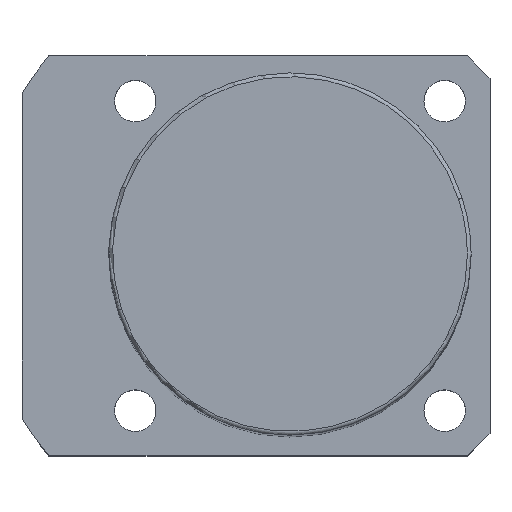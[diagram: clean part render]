
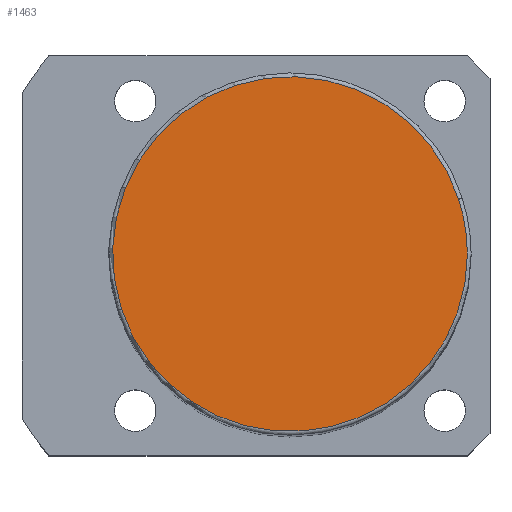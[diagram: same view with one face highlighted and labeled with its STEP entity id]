
A CAD part, top view. The second image highlights one B-rep face of the part: STEP entity #1463.
In plain terms, the highlighted planar face has unit normal (0, 0, 1).
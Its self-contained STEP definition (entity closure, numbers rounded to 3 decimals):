
#1396=CARTESIAN_POINT('',(22.35,7.262,149.0));
#1397=VERTEX_POINT('',#1396);
#1415=CARTESIAN_POINT('',(-22.35,-7.262,149.0));
#1416=VERTEX_POINT('',#1415);
#1424=CARTESIAN_POINT('',(0.0,0.0,149.0));
#1425=DIRECTION('',(0.0,0.0,1.0));
#1426=DIRECTION('',(1.0,0.0,0.0));
#1427=AXIS2_PLACEMENT_3D('',#1424,#1425,#1426);
#1428=CIRCLE('',#1427,23.5);
#1429=EDGE_CURVE('no 3415',#1397,#1416,#1428,.T.);
#1439=CARTESIAN_POINT('',(23.5,0.0,149.0));
#1440=VERTEX_POINT('',#1439);
#1441=CARTESIAN_POINT('',(0.0,0.0,149.0));
#1442=DIRECTION('',(0.0,0.0,1.0));
#1443=DIRECTION('',(1.0,0.0,0.0));
#1444=AXIS2_PLACEMENT_3D('',#1441,#1442,#1443);
#1445=CIRCLE('',#1444,23.5);
#1446=EDGE_CURVE('no 3424',#1440,#1397,#1445,.T.);
#1447=ORIENTED_EDGE('',*,*,#1446,.T.);
#1448=ORIENTED_EDGE('',*,*,#1429,.T.);
#1449=CARTESIAN_POINT('',(0.0,0.0,149.0));
#1450=DIRECTION('',(0.0,0.0,1.0));
#1451=DIRECTION('',(1.0,0.0,0.0));
#1452=AXIS2_PLACEMENT_3D('',#1449,#1450,#1451);
#1453=CIRCLE('',#1452,23.5);
#1454=EDGE_CURVE('no 3430',#1416,#1440,#1453,.T.);
#1455=ORIENTED_EDGE('',*,*,#1454,.T.);
#1456=EDGE_LOOP('',(#1447,#1448,#1455));
#1457=FACE_OUTER_BOUND('',#1456,.T.);
#1458=CARTESIAN_POINT('',(0.0,0.0,149.0));
#1459=DIRECTION('',(0.0,0.0,1.0));
#1460=DIRECTION('',(1.0,0.0,0.0));
#1461=AXIS2_PLACEMENT_3D('',#1458,#1459,#1460);
#1462=PLANE('',#1461);
#1463=ADVANCED_FACE('no 3417',(#1457),#1462,.T.);
